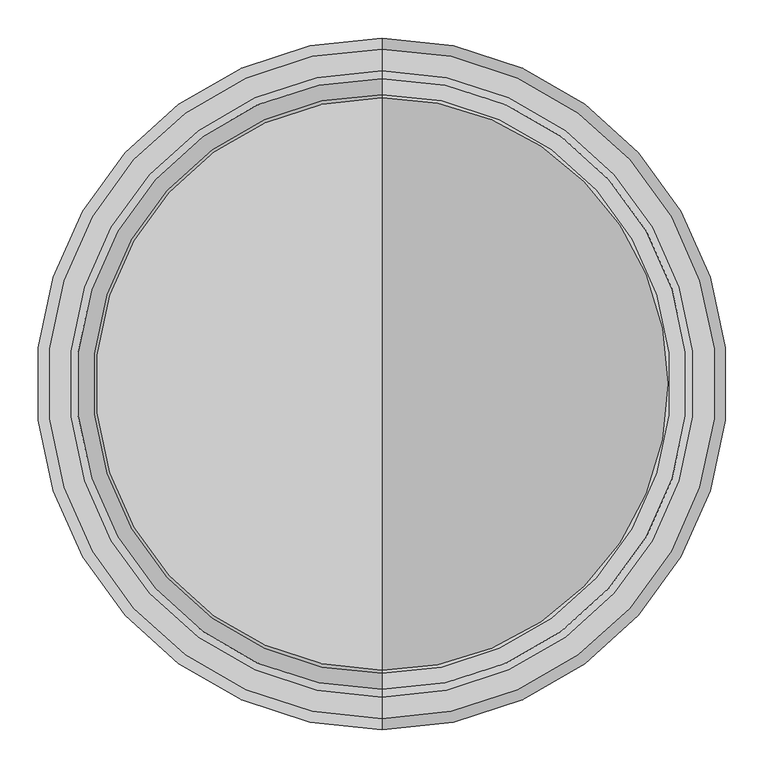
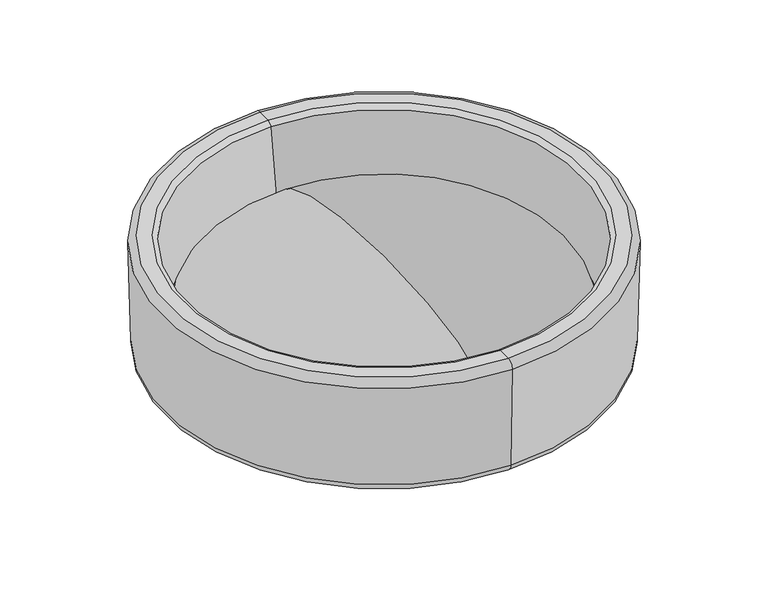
"""IFC4 building model written with IfcOpenShell, lengths in millimetres: light fixture geometry, MARSET_Interior-Lighting-Fixture_Face-Based_Ringo-90C : A732-003-53-3CCT."""

from ifc_helpers import new_model, si_unit, point, frame, origin, place, context, project, spatial, polyline, circle_curve, ellipse_curve, trimmed, source, transform, mapped, element, save
from ifc_brep_helpers import plane_surface, cylinder_surface, revolved_surface, spline_curve, advanced_brep


def light_fixture_287bd3e8(model_context):
    return source(origin(), model_context, "Body", "AdvancedBrep", [
        advanced_brep(
        [(0.0, -328.4749362, 121.8623352), (0.0, 328.4749362, 121.8623352), (0.0, 0.0, 121.8623352), (0.0, 0.0, 258.501713)],
        [
            (0, 1, circle_curve(frame((0.0, 0.0, 121.8623352), z_axis=(0.0, 0.0, -1.0), x_axis=(0.0, 1.0, 0.0)), 328.4749362)),
            (1, 2),
            (2, 0),
            (1, 0, circle_curve(frame((0.0, 0.0, 121.8623352), z_axis=(0.0, 0.0, -1.0), x_axis=(0.0, 1.0, 0.0)), 328.4749362)),
            (3, 1, spline_curve(3, [(0.0, 0.0, 258.501713), (0.0, 174.963338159, 254.655127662), (0.0, 274.765166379, 233.867933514), (0.0, 365.091112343, 182.541977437), (0.0, 379.840464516, 156.995349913), (0.0, 364.853670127, 128.96389171), (0.0, 353.401201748, 121.314328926), (0.0, 328.4749362, 121.8623352)], [4, 2, 2, 4], [0.0, 0.4752943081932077, 0.803846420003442, 0.9711113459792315])),
            (0, 3, spline_curve(3, [(0.0, -328.4749362, 121.8623352), (0.0, -353.401201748, 121.314328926), (0.0, -364.853670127, 128.96389171), (0.0, -379.840464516, 156.995349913), (0.0, -365.091112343, 182.541977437), (0.0, -274.765166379, 233.867933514), (0.0, -174.963338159, 254.655127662), (0.0, 0.0, 258.501713)], [4, 2, 2, 4], [0.0, 0.16726492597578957, 0.4958170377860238, 0.9711113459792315])),
        ],
        [
            plane_surface(frame((0.0, 0.0, 121.8623352), z_axis=(0.0, 0.0, -1.0), x_axis=(0.0, 1.0, 0.0))),
            revolved_surface(spline_curve(3, [(0.0, 328.4749362, 121.8623352), (0.0, 353.401201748, 121.314328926), (0.0, 364.853670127, 128.96389171), (0.0, 379.840464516, 156.995349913), (0.0, 365.091112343, 182.541977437), (0.0, 274.765166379, 233.867933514), (0.0, 174.963338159, 254.655127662), (0.0, 0.0, 258.501713)], [4, 2, 2, 4], [0.0, 0.16726492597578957, 0.4958170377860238, 0.9711113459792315]), (0.0, 0.0, 330.0), (0.0, 0.0, 1.0)),
        ],
        [
            (0, [[1, 2, 3]]),
            (0, [[4, -3, -2]]),
            (1, [[5, -1, 6]]),
            (1, [[-6, -4, -5]]),
        ],
    ),
        advanced_brep(
        [(0.0, -436.0061099, 302.9272047), (0.0, 436.0061099, 302.9272047), (0.0, 450.0558455, 288.4985563), (0.0, -450.0558455, 288.4985563), (0.0, -407.6861095, 302.9272047), (0.0, 407.6861095, 302.9272047), (0.0, -397.7834288, 294.3189357), (0.0, 397.7834288, 294.3189357), (0.0, -376.7949294, 144.9780026), (0.0, 376.7949294, 144.9780026), (0.0, -342.135547, 114.8490612), (0.0, 342.135547, 114.8490612), (0.0, 0.0, 114.8490612), (0.0, -85.6686743, 50.0), (0.0, 85.6686743, 50.0), (0.0, 0.0, 50.0), (0.0, -85.6686743, 52.5277759), (0.0, 85.6686743, 52.5277759), (0.0, -84.8806425, 53.4669156), (0.0, 84.8806425, 53.4669156), (0.0, -427.6832327, 61.827974), (0.0, 427.6832327, 61.827974), (0.0, -444.4687039, 78.5761638), (0.0, 444.4687039, 78.5761638)],
        [
            (0, 1, circle_curve(frame((0.0, 0.0, 302.9272047), z_axis=(0.0, 0.0, -1.0), x_axis=(0.0, 1.0, 0.0)), 436.0061099)),
            (1, 2, circle_curve(frame((0.0, 436.0061099, 288.8724938), z_axis=(-1.0, 0.0, 0.0), x_axis=(0.0, -1.0, 0.0)), 14.0547109)),
            (2, 3, circle_curve(frame((0.0, 0.0, 288.4985563), z_axis=(0.0, 0.0, 1.0), x_axis=(0.0, 1.0, 0.0)), 450.0558455)),
            (3, 0, circle_curve(frame((0.0, -436.0061099, 288.8724938), z_axis=(-1.0, 0.0, 0.0), x_axis=(0.0, 1.0, 0.0)), 14.0547109)),
            (1, 0, circle_curve(frame((0.0, 0.0, 302.9272047), z_axis=(0.0, 0.0, -1.0), x_axis=(0.0, 1.0, 0.0)), 436.0061099)),
            (3, 2, circle_curve(frame((0.0, 0.0, 288.4985563), z_axis=(0.0, 0.0, 1.0), x_axis=(0.0, 1.0, 0.0)), 450.0558455)),
            (4, 5, circle_curve(frame((0.0, 0.0, 302.9272047), z_axis=(0.0, 0.0, -1.0), x_axis=(0.0, 1.0, 0.0)), 407.6861095)),
            (5, 1),
            (0, 4),
            (5, 4, circle_curve(frame((0.0, 0.0, 302.9272047), z_axis=(0.0, 0.0, -1.0), x_axis=(0.0, 1.0, 0.0)), 407.6861095)),
            (6, 7, circle_curve(frame((0.0, 0.0, 294.3189357), z_axis=(0.0, 0.0, -1.0), x_axis=(0.0, 1.0, 0.0)), 397.7834288)),
            (7, 5, circle_curve(frame((0.0, 407.6861095, 292.9272047), z_axis=(-1.0, 0.0, 0.0), x_axis=(0.0, -1.0, 0.0)), 10.0)),
            (4, 6, circle_curve(frame((0.0, -407.6861095, 292.9272047), z_axis=(-1.0, 0.0, 0.0), x_axis=(0.0, 1.0, 0.0)), 10.0)),
            (7, 6, circle_curve(frame((0.0, 0.0, 294.3189357), z_axis=(0.0, 0.0, -1.0), x_axis=(0.0, 1.0, 0.0)), 397.7834288)),
            (8, 9, circle_curve(frame((0.0, 0.0, 144.9780026), z_axis=(0.0, 0.0, -1.0), x_axis=(0.0, 1.0, 0.0)), 376.7949294)),
            (9, 7),
            (6, 8),
            (9, 8, circle_curve(frame((0.0, 0.0, 144.9780026), z_axis=(0.0, 0.0, -1.0), x_axis=(0.0, 1.0, 0.0)), 376.7949294)),
            (10, 11, circle_curve(frame((0.0, 0.0, 114.8490612), z_axis=(0.0, 0.0, -1.0), x_axis=(0.0, 1.0, 0.0)), 342.135547)),
            (11, 9, circle_curve(frame((0.0, 342.135547, 149.8490612), z_axis=(1.0, 0.0, 0.0), x_axis=(0.0, -1.0, 0.0)), 35.0)),
            (8, 10, circle_curve(frame((0.0, -342.135547, 149.8490612), z_axis=(1.0, 0.0, 0.0), x_axis=(0.0, 1.0, 0.0)), 35.0)),
            (11, 10, circle_curve(frame((0.0, 0.0, 114.8490612), z_axis=(0.0, 0.0, -1.0), x_axis=(0.0, 1.0, 0.0)), 342.135547)),
            (12, 11),
            (10, 12),
            (13, 14, circle_curve(frame((0.0, 0.0, 50.0), z_axis=(0.0, 0.0, -1.0), x_axis=(0.0, 1.0, 0.0)), 85.6686743)),
            (14, 15),
            (15, 13),
            (14, 13, circle_curve(frame((0.0, 0.0, 50.0), z_axis=(0.0, 0.0, -1.0), x_axis=(0.0, 1.0, 0.0)), 85.6686743)),
            (16, 17, circle_curve(frame((0.0, 0.0, 52.5277759), z_axis=(0.0, 0.0, -1.0), x_axis=(0.0, 1.0, 0.0)), 85.6686743)),
            (17, 14),
            (13, 16),
            (17, 16, circle_curve(frame((0.0, 0.0, 52.5277759), z_axis=(0.0, 0.0, -1.0), x_axis=(0.0, 1.0, 0.0)), 85.6686743)),
            (18, 19, circle_curve(frame((0.0, 0.0, 53.4669156), z_axis=(0.0, 0.0, -1.0), x_axis=(0.0, 1.0, 0.0)), 84.8806425)),
            (19, 17),
            (16, 18),
            (19, 18, circle_curve(frame((0.0, 0.0, 53.4669156), z_axis=(0.0, 0.0, -1.0), x_axis=(0.0, 1.0, 0.0)), 84.8806425)),
            (20, 21, circle_curve(frame((0.0, 0.0, 61.827974), z_axis=(0.0, 0.0, -1.0), x_axis=(0.0, 1.0, 0.0)), 427.6832327)),
            (21, 19),
            (18, 20),
            (21, 20, circle_curve(frame((0.0, 0.0, 61.827974), z_axis=(0.0, 0.0, -1.0), x_axis=(0.0, 1.0, 0.0)), 427.6832327)),
            (22, 23, circle_curve(frame((0.0, 0.0, 78.5761638), z_axis=(0.0, 0.0, -1.0), x_axis=(0.0, 1.0, 0.0)), 444.4687039)),
            (23, 21, circle_curve(frame((0.0, 427.2635705, 79.0340831), z_axis=(-1.0, 0.0, 0.0), x_axis=(0.0, -1.0, 0.0)), 17.2112261)),
            (20, 22, circle_curve(frame((0.0, -427.2635705, 79.0340831), z_axis=(-1.0, 0.0, 0.0), x_axis=(0.0, 1.0, 0.0)), 17.2112261)),
            (23, 22, circle_curve(frame((0.0, 0.0, 78.5761638), z_axis=(0.0, 0.0, -1.0), x_axis=(0.0, 1.0, 0.0)), 444.4687039)),
            (2, 23),
            (22, 3),
        ],
        [
            revolved_surface(trimmed(ellipse_curve(frame((0.0, 436.0061099, 288.8724938), z_axis=(1.0, 0.0, 0.0), x_axis=(0.0, -1.0, 0.0)), 14.0547109, 14.0547109), [point((0.0, 450.0558455, 288.4985563))], [point((0.0, 436.0061099, 302.9272047))], True, "CARTESIAN"), (0.0, 0.0, -22.3332977), (0.0, 0.0, 1.0)),
            plane_surface(frame((0.0, 0.0, 302.9272047), z_axis=(0.0, 0.0, 1.0), x_axis=(0.0, 1.0, 0.0))),
            revolved_surface(trimmed(ellipse_curve(frame((0.0, 407.6861095, 292.9272047), z_axis=(1.0, 0.0, 0.0), x_axis=(0.0, -1.0, 0.0)), 10.0, 10.0), [point((0.0, 407.6861095, 302.9272047))], [point((0.0, 397.7834288, 294.3189357))], True, "CARTESIAN"), (0.0, 0.0, -22.3332977), (0.0, 0.0, 1.0)),
            revolved_surface(polyline([(0.0, 397.7834288, 294.3189357), (0.0, 376.7949294, 144.9780026)]), (0.0, 0.0, -22.3332977), (0.0, 0.0, 1.0)),
            revolved_surface(trimmed(ellipse_curve(frame((0.0, 342.135547, 149.8490612), z_axis=(-1.0, 0.0, 0.0), x_axis=(0.0, -1.0, 0.0)), 35.0, 35.0), [point((0.0, 376.7949294, 144.9780026))], [point((0.0, 342.135547, 114.8490612))], True, "CARTESIAN"), (0.0, 0.0, -22.3332977), (0.0, 0.0, 1.0)),
            plane_surface(frame((0.0, 0.0, 114.8490612), z_axis=(0.0, 0.0, 1.0), x_axis=(0.0, 1.0, 0.0))),
            plane_surface(frame((0.0, 0.0, 50.0), z_axis=(0.0, 0.0, -1.0), x_axis=(0.0, 1.0, 0.0))),
            cylinder_surface(frame((0.0, 0.0, -22.3332977), z_axis=(0.0, 0.0, 1.0), x_axis=(0.0, 1.0, 0.0)), 85.6686743),
            revolved_surface(polyline([(0.0, 85.6686743, 52.5277759), (0.0, 84.8806425, 53.4669156)]), (0.0, 0.0, -22.3332977), (0.0, 0.0, 1.0)),
            revolved_surface(polyline([(0.0, 84.8806425, 53.4669156), (0.0, 427.6832327, 61.827974)]), (0.0, 0.0, -22.3332977), (0.0, 0.0, 1.0)),
            revolved_surface(trimmed(ellipse_curve(frame((0.0, 427.2635705, 79.0340831), z_axis=(1.0, 0.0, 0.0), x_axis=(0.0, -1.0, 0.0)), 17.2112261, 17.2112261), [point((0.0, 427.6832327, 61.827974))], [point((0.0, 444.4687039, 78.5761638))], True, "CARTESIAN"), (0.0, 0.0, -22.3332977), (0.0, 0.0, 1.0)),
            revolved_surface(polyline([(0.0, 444.4687039, 78.5761638), (0.0, 450.0558455, 288.4985563)]), (0.0, 0.0, -22.3332977), (0.0, 0.0, 1.0)),
        ],
        [
            (0, [[1, 2, 3, 4]]),
            (0, [[5, -4, 6, -2]]),
            (1, [[7, 8, -1, 9]]),
            (1, [[10, -9, -5, -8]]),
            (2, [[11, 12, -7, 13]]),
            (2, [[14, -13, -10, -12]]),
            (3, [[15, 16, -11, 17]]),
            (3, [[18, -17, -14, -16]]),
            (4, [[19, 20, -15, 21]]),
            (4, [[22, -21, -18, -20]]),
            (5, [[23, -19, 24]]),
            (5, [[-24, -22, -23]]),
            (6, [[25, 26, 27]]),
            (6, [[28, -27, -26]]),
            (7, [[29, 30, -25, 31]]),
            (7, [[32, -31, -28, -30]]),
            (8, [[33, 34, -29, 35]]),
            (8, [[36, -35, -32, -34]]),
            (9, [[37, 38, -33, 39]]),
            (9, [[40, -39, -36, -38]]),
            (10, [[41, 42, -37, 43]]),
            (10, [[44, -43, -40, -42]]),
            (11, [[-3, 45, -41, 46]]),
            (11, [[-6, -46, -44, -45]]),
        ],
    ),
        advanced_brep(
        [(0.0, -68.091695, 50.0), (0.0, 68.091695, 50.0), (0.0, 70.123291, 47.968404), (0.0, -70.123291, 47.968404), (0.0, 0.0, 50.0), (0.0, -70.123291, 0.0), (0.0, 70.123291, 0.0), (0.0, 0.0, 0.0)],
        [
            (0, 1, circle_curve(frame((0.0, 0.0, 50.0), z_axis=(0.0, 0.0, -1.0), x_axis=(0.0, 1.0, 0.0)), 68.091695)),
            (1, 2, circle_curve(frame((0.0, 68.091695, 47.968404), z_axis=(-1.0, 0.0, 0.0), x_axis=(0.0, -1.0, 0.0)), 2.031596)),
            (2, 3, circle_curve(frame((0.0, 0.0, 47.968404), z_axis=(0.0, 0.0, 1.0), x_axis=(0.0, 1.0, 0.0)), 70.123291)),
            (3, 0, circle_curve(frame((0.0, -68.091695, 47.968404), z_axis=(-1.0, 0.0, 0.0), x_axis=(0.0, 1.0, 0.0)), 2.031596)),
            (1, 0, circle_curve(frame((0.0, 0.0, 50.0), z_axis=(0.0, 0.0, -1.0), x_axis=(0.0, 1.0, 0.0)), 68.091695)),
            (3, 2, circle_curve(frame((0.0, 0.0, 47.968404), z_axis=(0.0, 0.0, 1.0), x_axis=(0.0, 1.0, 0.0)), 70.123291)),
            (4, 1),
            (0, 4),
            (5, 6, circle_curve(frame((0.0, 0.0, 0.0), z_axis=(0.0, 0.0, -1.0), x_axis=(0.0, 1.0, 0.0)), 70.123291)),
            (6, 7),
            (7, 5),
            (6, 5, circle_curve(frame((0.0, 0.0, 0.0), z_axis=(0.0, 0.0, -1.0), x_axis=(0.0, 1.0, 0.0)), 70.123291)),
            (2, 6),
            (5, 3),
        ],
        [
            revolved_surface(trimmed(ellipse_curve(frame((0.0, 68.091695, 47.968404), z_axis=(1.0, 0.0, 0.0), x_axis=(0.0, -1.0, 0.0)), 2.031596, 2.031596), [point((0.0, 70.123291, 47.968404))], [point((0.0, 68.091695, 50.0))], True, "CARTESIAN"), (0.0, 0.0, -50.0), (0.0, 0.0, 1.0)),
            plane_surface(frame((0.0, 0.0, 50.0), z_axis=(0.0, 0.0, 1.0), x_axis=(0.0, 1.0, 0.0))),
            plane_surface(frame((0.0, 0.0, 0.0), z_axis=(0.0, 0.0, -1.0), x_axis=(0.0, 1.0, 0.0))),
            cylinder_surface(frame((0.0, 0.0, -50.0), z_axis=(0.0, 0.0, 1.0), x_axis=(0.0, 1.0, 0.0)), 70.123291),
        ],
        [
            (0, [[1, 2, 3, 4]]),
            (0, [[5, -4, 6, -2]]),
            (1, [[7, -1, 8]]),
            (1, [[-8, -5, -7]]),
            (2, [[9, 10, 11]]),
            (2, [[12, -11, -10]]),
            (3, [[-3, 13, -9, 14]]),
            (3, [[-6, -14, -12, -13]]),
        ],
    ),
    ])


if __name__ == "__main__":
    model = new_model("IFC4")
    model_context = context("Model", 3, world=origin())
    ifc_project = project(units=[si_unit("LENGTHUNIT", "METRE", prefix="MILLI")], contexts=[model_context])
    site = spatial("IfcSite", under=ifc_project)
    building = spatial("IfcBuilding", under=site)
    placement = place(None, origin())
    light_fixture_shape = light_fixture_287bd3e8(model_context)
    element("IfcLightFixture", 1, ObjectType="MARSET_Interior-Lighting-Fixture_Face-Based_Ringo-90C : A732-003-53-3CCT", at=placement, inside=building, context=model_context, shape_type="MappedRepresentation", body=[
        mapped(light_fixture_shape, transform((0.0, 0.0, 0.0), x_axis=(1.0, 0.0, 0.0), y_axis=(0.0, 1.0, 0.0), z_axis=(0.0, 0.0, 1.0))),
    ])
    save(model, "model.ifc")
